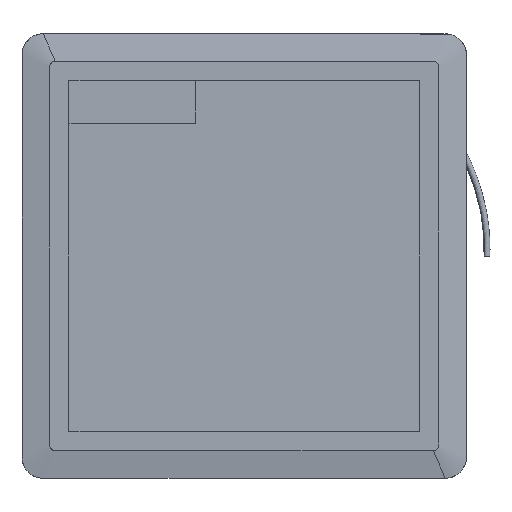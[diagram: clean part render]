
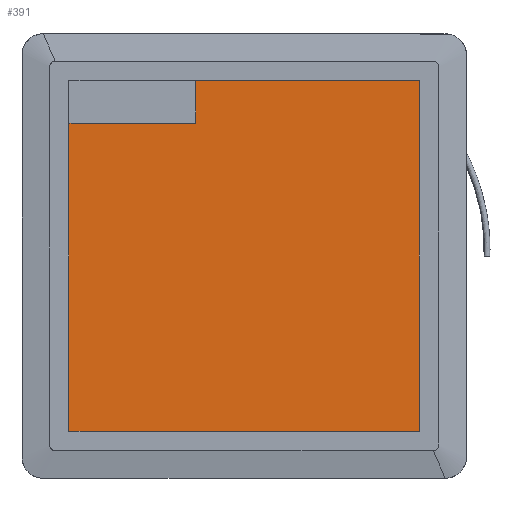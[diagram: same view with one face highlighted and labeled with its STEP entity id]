
A CAD part, front view. The second image highlights one B-rep face of the part: STEP entity #391.
In plain terms, the highlighted planar face has unit normal (0, -1, 0).
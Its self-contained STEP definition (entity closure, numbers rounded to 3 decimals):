
#391=ADVANCED_FACE('',(#839),#7611,.T.);
#839=FACE_OUTER_BOUND('',#1319,.T.);
#1319=EDGE_LOOP('',(#2999,#3000,#3001,#3002,#3003,#3004));
#2999=ORIENTED_EDGE('',*,*,#4714,.F.);
#3000=ORIENTED_EDGE('',*,*,#4717,.F.);
#3001=ORIENTED_EDGE('',*,*,#4710,.T.);
#3002=ORIENTED_EDGE('',*,*,#4719,.F.);
#3003=ORIENTED_EDGE('',*,*,#4713,.T.);
#3004=ORIENTED_EDGE('',*,*,#4718,.F.);
#4710=EDGE_CURVE('',#6967,#6968,#6225,.T.);
#4713=EDGE_CURVE('',#6971,#6972,#6228,.T.);
#4714=EDGE_CURVE('',#6970,#6973,#6229,.T.);
#4717=EDGE_CURVE('',#6967,#6970,#6232,.T.);
#4718=EDGE_CURVE('',#6973,#6972,#6233,.T.);
#4719=EDGE_CURVE('',#6971,#6968,#6234,.T.);
#6225=B_SPLINE_CURVE_WITH_KNOTS('',1,(#19975,#19976),.UNSPECIFIED.,.F.,.F.,
(2,2),(0.,82.8),.UNSPECIFIED.);
#6228=B_SPLINE_CURVE_WITH_KNOTS('',1,(#19981,#19982),.UNSPECIFIED.,.F.,.F.,
(2,2),(-82.8,-30.),.UNSPECIFIED.);
#6229=B_SPLINE_CURVE_WITH_KNOTS('',1,(#19983,#19984),.UNSPECIFIED.,.F.,.F.,
(2,2),(0.,30.),.UNSPECIFIED.);
#6232=B_SPLINE_CURVE_WITH_KNOTS('',1,(#19989,#19990,#19991,#19992,#19993,
#19994,#19995,#19996,#19997,#19998,#19999,#20000,#20001,#20002,#20003,#20004,
#20005,#20006),.UNSPECIFIED.,.F.,.F.,(2,1,1,1,1,1,1,1,1,1,1,1,1,1,1,1,1,
2),(0.,0.482,3.182,9.532,12.232,
18.582,21.283,27.633,30.333,36.683,
39.383,45.733,48.434,54.784,57.484,
63.834,66.534,72.8),.UNSPECIFIED.);
#6233=B_SPLINE_CURVE_WITH_KNOTS('',1,(#20007,#20008,#20009,#20010),
 .UNSPECIFIED.,.F.,.F.,(2,1,1,2),(0.,3.502,6.203,10.),
 .UNSPECIFIED.);
#6234=B_SPLINE_CURVE_WITH_KNOTS('',1,(#20011,#20012,#20013,#20014,#20015,
#20016,#20017,#20018,#20019,#20020,#20021,#20022,#20023,#20024,#20025,#20026,
#20027,#20028,#20029,#20030),.UNSPECIFIED.,.F.,.F.,(2,1,1,1,1,1,1,1,1,1,
1,1,1,1,1,1,1,1,1,2),(-82.8,-75.585,-72.884,
-66.534,-63.834,-57.484,-54.784,-48.434,
-45.733,-39.383,-36.683,-30.333,
-27.633,-21.283,-18.582,-12.232,
-9.532,-3.182,-0.482,0.),
 .UNSPECIFIED.);
#6967=VERTEX_POINT('',#19906);
#6968=VERTEX_POINT('',#19907);
#6970=VERTEX_POINT('',#19909);
#6971=VERTEX_POINT('',#19910);
#6972=VERTEX_POINT('',#19911);
#6973=VERTEX_POINT('',#19912);
#7611=PLANE('',#7821);
#7821=AXIS2_PLACEMENT_3D('',#19105,#8015,$);
#8015=DIRECTION('',(0.,-1.,0.));
#19105=CARTESIAN_POINT('',(-41.4,-20.496,-41.4));
#19906=CARTESIAN_POINT('',(-41.4,-20.496,-41.4));
#19907=CARTESIAN_POINT('',(41.4,-20.496,-41.4));
#19909=CARTESIAN_POINT('',(-41.4,-20.496,31.4));
#19910=CARTESIAN_POINT('',(41.4,-20.496,41.4));
#19911=CARTESIAN_POINT('',(-11.4,-20.496,41.4));
#19912=CARTESIAN_POINT('',(-11.4,-20.496,31.4));
#19975=CARTESIAN_POINT('',(-41.4,-20.496,-41.4));
#19976=CARTESIAN_POINT('',(41.4,-20.496,-41.4));
#19981=CARTESIAN_POINT('',(41.4,-20.496,41.4));
#19982=CARTESIAN_POINT('',(-11.4,-20.496,41.4));
#19983=CARTESIAN_POINT('',(-41.4,-20.496,31.4));
#19984=CARTESIAN_POINT('',(-11.4,-20.496,31.4));
#19989=CARTESIAN_POINT('',(-41.4,-20.496,-41.4));
#19990=CARTESIAN_POINT('',(-41.4,-20.496,-40.918));
#19991=CARTESIAN_POINT('',(-41.4,-20.496,-38.218));
#19992=CARTESIAN_POINT('',(-41.4,-20.496,-31.868));
#19993=CARTESIAN_POINT('',(-41.4,-20.496,-29.168));
#19994=CARTESIAN_POINT('',(-41.4,-20.496,-22.818));
#19995=CARTESIAN_POINT('',(-41.4,-20.496,-20.117));
#19996=CARTESIAN_POINT('',(-41.4,-20.496,-13.767));
#19997=CARTESIAN_POINT('',(-41.4,-20.496,-11.067));
#19998=CARTESIAN_POINT('',(-41.4,-20.496,-4.717));
#19999=CARTESIAN_POINT('',(-41.4,-20.496,-2.017));
#20000=CARTESIAN_POINT('',(-41.4,-20.496,4.333));
#20001=CARTESIAN_POINT('',(-41.4,-20.496,7.034));
#20002=CARTESIAN_POINT('',(-41.4,-20.496,13.384));
#20003=CARTESIAN_POINT('',(-41.4,-20.496,16.084));
#20004=CARTESIAN_POINT('',(-41.4,-20.496,22.434));
#20005=CARTESIAN_POINT('',(-41.4,-20.496,25.134));
#20006=CARTESIAN_POINT('',(-41.4,-20.496,31.4));
#20007=CARTESIAN_POINT('',(-11.4,-20.496,31.4));
#20008=CARTESIAN_POINT('',(-11.4,-20.496,34.902));
#20009=CARTESIAN_POINT('',(-11.4,-20.496,37.603));
#20010=CARTESIAN_POINT('',(-11.4,-20.496,41.4));
#20011=CARTESIAN_POINT('',(41.4,-20.496,41.4));
#20012=CARTESIAN_POINT('',(41.4,-20.496,34.185));
#20013=CARTESIAN_POINT('',(41.4,-20.496,31.484));
#20014=CARTESIAN_POINT('',(41.4,-20.496,25.134));
#20015=CARTESIAN_POINT('',(41.4,-20.496,22.434));
#20016=CARTESIAN_POINT('',(41.4,-20.496,16.084));
#20017=CARTESIAN_POINT('',(41.4,-20.496,13.384));
#20018=CARTESIAN_POINT('',(41.4,-20.496,7.034));
#20019=CARTESIAN_POINT('',(41.4,-20.496,4.333));
#20020=CARTESIAN_POINT('',(41.4,-20.496,-2.017));
#20021=CARTESIAN_POINT('',(41.4,-20.496,-4.717));
#20022=CARTESIAN_POINT('',(41.4,-20.496,-11.067));
#20023=CARTESIAN_POINT('',(41.4,-20.496,-13.767));
#20024=CARTESIAN_POINT('',(41.4,-20.496,-20.117));
#20025=CARTESIAN_POINT('',(41.4,-20.496,-22.818));
#20026=CARTESIAN_POINT('',(41.4,-20.496,-29.168));
#20027=CARTESIAN_POINT('',(41.4,-20.496,-31.868));
#20028=CARTESIAN_POINT('',(41.4,-20.496,-38.218));
#20029=CARTESIAN_POINT('',(41.4,-20.496,-40.918));
#20030=CARTESIAN_POINT('',(41.4,-20.496,-41.4));
